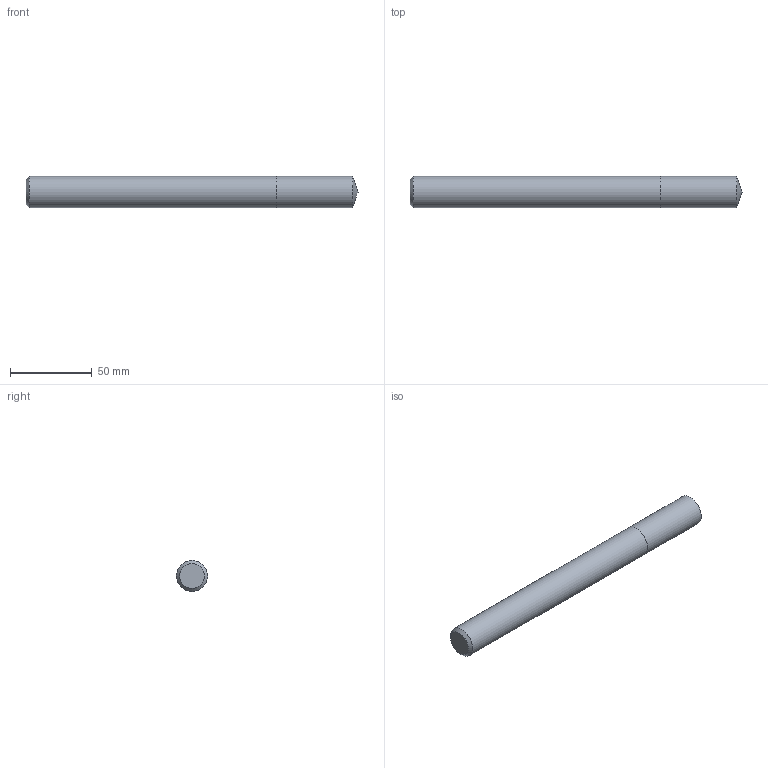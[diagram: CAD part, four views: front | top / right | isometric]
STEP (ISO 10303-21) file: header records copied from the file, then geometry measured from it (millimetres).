
FILE_DESCRIPTION (( 'STEP AP214' ), '1' );
FILE_NAME ('03-2236.STEP', '2022-02-07T07:07:16', ( 'USER' ), ( '' ), 'SwSTEP 2.0', 'SolidWorks 2018', '' );
FILE_SCHEMA (( 'AUTOMOTIVE_DESIGN' ));
Length unit declared in the file: millimetre
Products named in the file (1): 03-2236
Bounding box: 203.2 x 19.05 x 19.05 mm (x, y, z)
Volume: 57192.1 mm3; surface area: 13049.7 mm2
Topology: 2 solids, 2 shells, 7 faces, 11 edges, 7 vertices
Faces by surface type: plane 3, cylinder 2, cone 2
Full cylindrical faces by diameter (mm): 19.05 x2
Entity records: 189 total; most frequent: DIRECTION 26, CARTESIAN_POINT 18, AXIS2_PLACEMENT_3D 13, EDGE_LOOP 10, ORIENTED_EDGE 10, FACE_OUTER_BOUND 9, ADVANCED_FACE 7, UNCERTAINTY_MEASURE_WITH_UNIT 6
